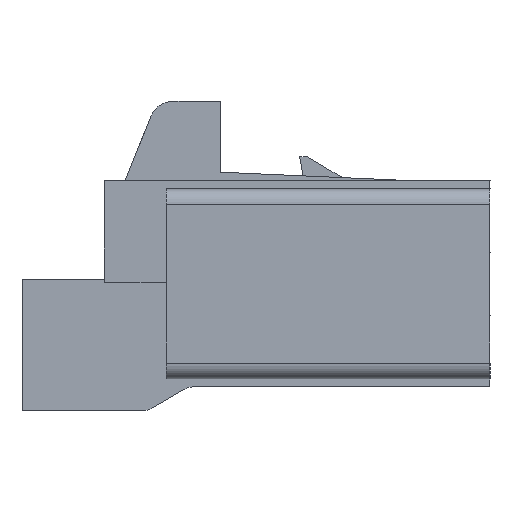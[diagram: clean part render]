
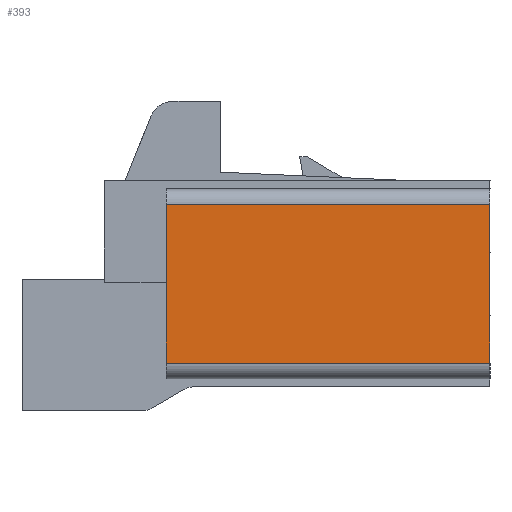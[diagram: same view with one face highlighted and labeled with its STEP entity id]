
A CAD part, front view. The second image highlights one B-rep face of the part: STEP entity #393.
In plain terms, the highlighted planar face has unit normal (0, -1, 0).
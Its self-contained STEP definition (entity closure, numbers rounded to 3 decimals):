
#366=AXIS2_PLACEMENT_3D('Plane Axis2P3D',#363,#364,#365) ;
#334=CARTESIAN_POINT('Vertex',(0.,-2.55,-8.2)) ;
#337=CARTESIAN_POINT('Line Origine',(-10.2,-2.55,-8.2)) ;
#341=CARTESIAN_POINT('Vertex',(-20.4,-2.55,-8.2)) ;
#363=CARTESIAN_POINT('Axis2P3D Location',(0.,-2.55,2.8)) ;
#368=CARTESIAN_POINT('Line Origine',(0.,-2.55,-3.2)) ;
#372=CARTESIAN_POINT('Vertex',(0.,-2.55,1.8)) ;
#375=CARTESIAN_POINT('Line Origine',(-10.2,-2.55,1.8)) ;
#379=CARTESIAN_POINT('Vertex',(-20.4,-2.55,1.8)) ;
#382=CARTESIAN_POINT('Line Origine',(-20.4,-2.55,-3.2)) ;
#338=DIRECTION('Vector Direction',(1.,0.,0.)) ;
#364=DIRECTION('Axis2P3D Direction',(0.,-1.,0.)) ;
#365=DIRECTION('Axis2P3D XDirection',(0.,0.,-1.)) ;
#369=DIRECTION('Vector Direction',(0.,0.,-1.)) ;
#376=DIRECTION('Vector Direction',(1.,0.,0.)) ;
#383=DIRECTION('Vector Direction',(0.,0.,-1.)) ;
#339=VECTOR('Line Direction',#338,1.) ;
#370=VECTOR('Line Direction',#369,1.) ;
#377=VECTOR('Line Direction',#376,1.) ;
#384=VECTOR('Line Direction',#383,1.) ;
#388=ORIENTED_EDGE('',*,*,#374,.F.) ;
#389=ORIENTED_EDGE('',*,*,#381,.F.) ;
#390=ORIENTED_EDGE('',*,*,#386,.T.) ;
#391=ORIENTED_EDGE('',*,*,#343,.T.) ;
#393=ADVANCED_FACE('\X2\FF8AFF9FFF70FF82\X0\ \X2\FF8EFF9EFF83FF9EFF68FF70\X0\',(#392),#367,.T.) ;
#343=EDGE_CURVE('',#342,#335,#340,.T.) ;
#374=EDGE_CURVE('',#373,#335,#371,.T.) ;
#381=EDGE_CURVE('',#380,#373,#378,.T.) ;
#386=EDGE_CURVE('',#380,#342,#385,.T.) ;
#387=EDGE_LOOP('',(#388,#389,#390,#391)) ;
#392=FACE_OUTER_BOUND('',#387,.T.) ;
#340=LINE('Line',#337,#339) ;
#371=LINE('Line',#368,#370) ;
#378=LINE('Line',#375,#377) ;
#385=LINE('Line',#382,#384) ;
#367=PLANE('',#366) ;
#335=VERTEX_POINT('',#334) ;
#342=VERTEX_POINT('',#341) ;
#373=VERTEX_POINT('',#372) ;
#380=VERTEX_POINT('',#379) ;
